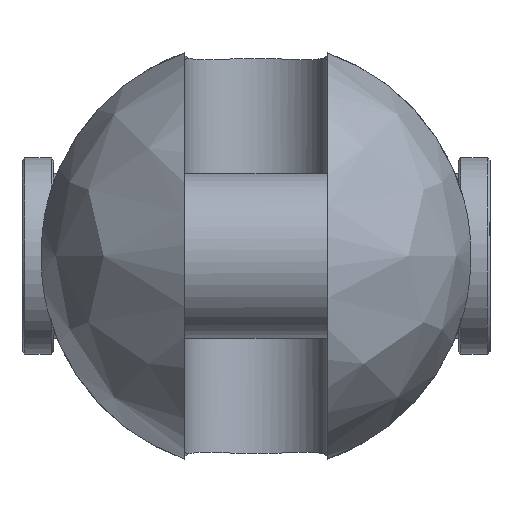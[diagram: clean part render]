
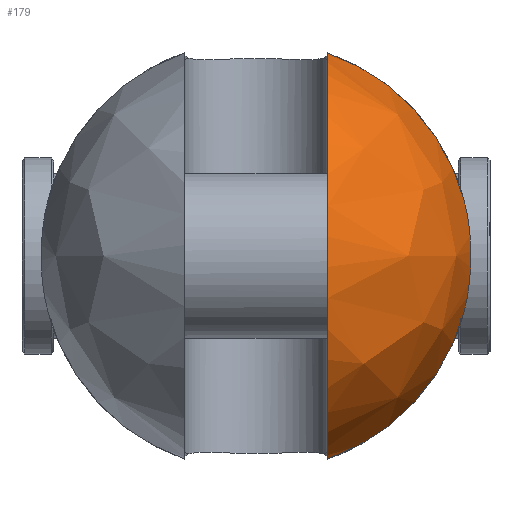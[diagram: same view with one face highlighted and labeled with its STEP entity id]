
A CAD part, left-side view. The second image highlights one B-rep face of the part: STEP entity #179.
In plain terms, the highlighted free-form (B-spline) face has degree [2, 2] with [9, 5] control points.
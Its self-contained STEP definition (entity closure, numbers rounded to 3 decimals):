
#179=ADVANCED_FACE('',(#320),#2417,.T.);
#320=FACE_OUTER_BOUND('',#481,.T.);
#481=EDGE_LOOP('',(#1194,#1195,#1196,#1197));
#1194=ORIENTED_EDGE('',*,*,#1575,.T.);
#1195=ORIENTED_EDGE('',*,*,#1603,.F.);
#1196=ORIENTED_EDGE('',*,*,#1615,.T.);
#1197=ORIENTED_EDGE('',*,*,#1595,.F.);
#1575=EDGE_CURVE('',#2249,#2248,#1983,.T.);
#1595=EDGE_CURVE('',#2249,#2261,#1993,.T.);
#1603=EDGE_CURVE('',#2268,#2248,#1994,.T.);
#1615=EDGE_CURVE('',#2268,#2261,#1789,.T.);
#1789=B_SPLINE_CURVE_WITH_KNOTS('',3,(#6107,#6108,#6109,#6110,#6111,#6112,
#6113,#6114,#6115,#6116,#6117,#6118,#6119,#6120),.UNSPECIFIED.,.F.,.F.,
(4,2,2,2,2,2,4),(0.,1.148,6.116,11.083,
16.051,21.019,22.167),.UNSPECIFIED.);
#1983=(
BOUNDED_CURVE()
B_SPLINE_CURVE(2,(#5883,#5884,#5885,#5886,#5887),.UNSPECIFIED.,.F.,.F.)
B_SPLINE_CURVE_WITH_KNOTS((3,2,3),(-119.958,-59.979,
0.),.UNSPECIFIED.)
CURVE()
GEOMETRIC_REPRESENTATION_ITEM()
RATIONAL_B_SPLINE_CURVE((1.,0.707,1.,0.707,1.))
REPRESENTATION_ITEM('')
);
#1993=(
BOUNDED_CURVE()
B_SPLINE_CURVE(2,(#5977,#5978,#5979),.UNSPECIFIED.,.F.,.F.)
B_SPLINE_CURVE_WITH_KNOTS((3,3),(0.,39.344),.UNSPECIFIED.)
CURVE()
GEOMETRIC_REPRESENTATION_ITEM()
RATIONAL_B_SPLINE_CURVE((1.,0.884,1.))
REPRESENTATION_ITEM('')
);
#1994=(
BOUNDED_CURVE()
B_SPLINE_CURVE(2,(#6034,#6035,#6036),.UNSPECIFIED.,.F.,.F.)
B_SPLINE_CURVE_WITH_KNOTS((3,3),(0.,39.344),.UNSPECIFIED.)
CURVE()
GEOMETRIC_REPRESENTATION_ITEM()
RATIONAL_B_SPLINE_CURVE((1.,0.884,1.))
REPRESENTATION_ITEM('')
);
#2248=VERTEX_POINT('',#5767);
#2249=VERTEX_POINT('',#5768);
#2261=VERTEX_POINT('',#5780);
#2268=VERTEX_POINT('',#5787);
#2417=(
BOUNDED_SURFACE()
B_SPLINE_SURFACE(2,2,((#5481,#5482,#5483,#5484,#5485),(#5486,#5487,#5488,
#5489,#5490),(#5491,#5492,#5493,#5494,#5495),(#5496,#5497,#5498,#5499,#5500),
(#5501,#5502,#5503,#5504,#5505),(#5506,#5507,#5508,#5509,#5510),(#5511,
#5512,#5513,#5514,#5515),(#5516,#5517,#5518,#5519,#5520),(#5521,#5522,#5523,
#5524,#5525)),.UNSPECIFIED.,.T.,.F.,.F.)
B_SPLINE_SURFACE_WITH_KNOTS((3,2,2,2,3),(3,2,3),(0.,63.617,127.235,
190.852,254.469),(0.,63.617,127.235),
 .UNSPECIFIED.)
GEOMETRIC_REPRESENTATION_ITEM()
RATIONAL_B_SPLINE_SURFACE(((1.,0.707,1.,0.707,1.),
(0.707,0.5,0.707,0.5,0.707),(1.,0.707,
1.,0.707,1.),(0.707,0.5,0.707,0.5,0.707),
(1.,0.707,1.,0.707,1.),(0.707,0.5,0.707,
0.5,0.707),(1.,0.707,1.,0.707,1.),(0.707,
0.5,0.707,0.5,0.707),(1.,0.707,1.,0.707,
1.)))
REPRESENTATION_ITEM('')
SURFACE()
);
#5481=CARTESIAN_POINT('',(-57.,0.,0.));
#5482=CARTESIAN_POINT('',(-57.,40.5,0.));
#5483=CARTESIAN_POINT('',(-16.5,40.5,0.));
#5484=CARTESIAN_POINT('',(24.,40.5,0.));
#5485=CARTESIAN_POINT('',(24.,0.,0.));
#5486=CARTESIAN_POINT('',(-57.,0.,0.));
#5487=CARTESIAN_POINT('',(-57.,40.5,40.5));
#5488=CARTESIAN_POINT('',(-16.5,40.5,40.5));
#5489=CARTESIAN_POINT('',(24.,40.5,40.5));
#5490=CARTESIAN_POINT('',(24.,0.,0.));
#5491=CARTESIAN_POINT('',(-57.,0.,0.));
#5492=CARTESIAN_POINT('',(-57.,0.,40.5));
#5493=CARTESIAN_POINT('',(-16.5,0.,40.5));
#5494=CARTESIAN_POINT('',(24.,0.,40.5));
#5495=CARTESIAN_POINT('',(24.,0.,0.));
#5496=CARTESIAN_POINT('',(-57.,0.,0.));
#5497=CARTESIAN_POINT('',(-57.,-40.5,40.5));
#5498=CARTESIAN_POINT('',(-16.5,-40.5,40.5));
#5499=CARTESIAN_POINT('',(24.,-40.5,40.5));
#5500=CARTESIAN_POINT('',(24.,0.,0.));
#5501=CARTESIAN_POINT('',(-57.,0.,0.));
#5502=CARTESIAN_POINT('',(-57.,-40.5,0.));
#5503=CARTESIAN_POINT('',(-16.5,-40.5,0.));
#5504=CARTESIAN_POINT('',(24.,-40.5,0.));
#5505=CARTESIAN_POINT('',(24.,0.,0.));
#5506=CARTESIAN_POINT('',(-57.,0.,0.));
#5507=CARTESIAN_POINT('',(-57.,-40.5,-40.5));
#5508=CARTESIAN_POINT('',(-16.5,-40.5,-40.5));
#5509=CARTESIAN_POINT('',(24.,-40.5,-40.5));
#5510=CARTESIAN_POINT('',(24.,0.,0.));
#5511=CARTESIAN_POINT('',(-57.,0.,0.));
#5512=CARTESIAN_POINT('',(-57.,0.,-40.5));
#5513=CARTESIAN_POINT('',(-16.5,0.,-40.5));
#5514=CARTESIAN_POINT('',(24.,0.,-40.5));
#5515=CARTESIAN_POINT('',(24.,0.,0.));
#5516=CARTESIAN_POINT('',(-57.,0.,0.));
#5517=CARTESIAN_POINT('',(-57.,40.5,-40.5));
#5518=CARTESIAN_POINT('',(-16.5,40.5,-40.5));
#5519=CARTESIAN_POINT('',(24.,40.5,-40.5));
#5520=CARTESIAN_POINT('',(24.,0.,0.));
#5521=CARTESIAN_POINT('',(-57.,0.,0.));
#5522=CARTESIAN_POINT('',(-57.,40.5,0.));
#5523=CARTESIAN_POINT('',(-16.5,40.5,0.));
#5524=CARTESIAN_POINT('',(24.,40.5,0.));
#5525=CARTESIAN_POINT('',(24.,0.,0.));
#5767=CARTESIAN_POINT('',(-16.5,-13.5,-38.184));
#5768=CARTESIAN_POINT('',(-16.5,-13.5,38.184));
#5780=CARTESIAN_POINT('',(-16.5,-39.144,10.392));
#5787=CARTESIAN_POINT('',(-16.5,-39.144,-10.392));
#5883=CARTESIAN_POINT('',(-16.5,-13.5,38.184));
#5884=CARTESIAN_POINT('',(-54.684,-13.5,38.184));
#5885=CARTESIAN_POINT('',(-54.684,-13.5,0.));
#5886=CARTESIAN_POINT('',(-54.684,-13.5,-38.184));
#5887=CARTESIAN_POINT('',(-16.5,-13.5,-38.184));
#5977=CARTESIAN_POINT('',(-16.5,-13.5,38.184));
#5978=CARTESIAN_POINT('',(-16.5,-33.658,31.057));
#5979=CARTESIAN_POINT('',(-16.5,-39.144,10.392));
#6034=CARTESIAN_POINT('',(-16.5,-39.144,-10.392));
#6035=CARTESIAN_POINT('',(-16.5,-33.658,-31.057));
#6036=CARTESIAN_POINT('',(-16.5,-13.5,-38.184));
#6107=CARTESIAN_POINT('',(-16.5,-39.144,-10.392));
#6108=CARTESIAN_POINT('',(-16.701,-39.229,-10.073));
#6109=CARTESIAN_POINT('',(-16.893,-39.309,-9.748));
#6110=CARTESIAN_POINT('',(-17.866,-39.717,-7.984));
#6111=CARTESIAN_POINT('',(-18.479,-39.97,-6.439));
#6112=CARTESIAN_POINT('',(-19.297,-40.306,-3.254));
#6113=CARTESIAN_POINT('',(-19.5,-40.389,-1.614));
#6114=CARTESIAN_POINT('',(-19.5,-40.389,1.614));
#6115=CARTESIAN_POINT('',(-19.297,-40.306,3.254));
#6116=CARTESIAN_POINT('',(-18.479,-39.97,6.439));
#6117=CARTESIAN_POINT('',(-17.866,-39.717,7.984));
#6118=CARTESIAN_POINT('',(-16.893,-39.309,9.748));
#6119=CARTESIAN_POINT('',(-16.701,-39.229,10.073));
#6120=CARTESIAN_POINT('',(-16.5,-39.144,10.392));
